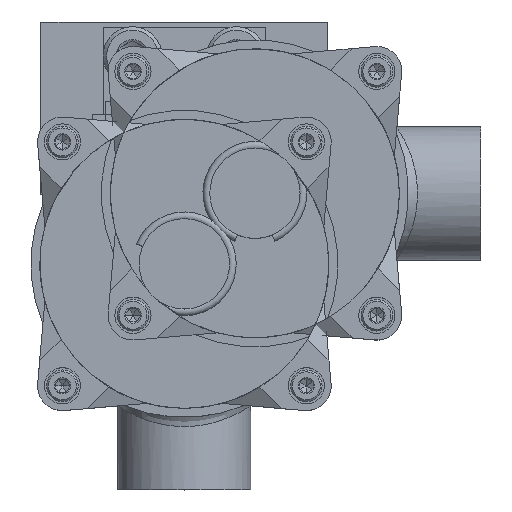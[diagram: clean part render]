
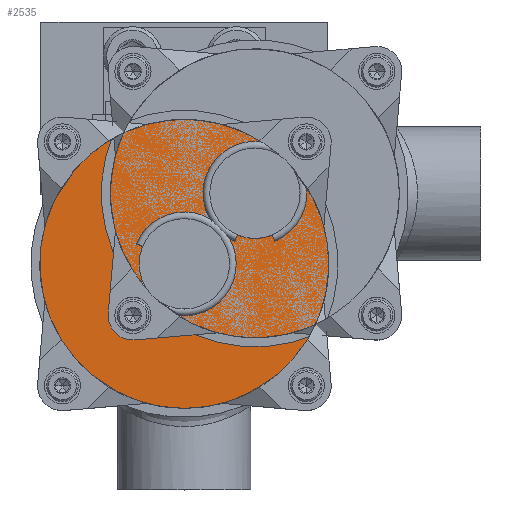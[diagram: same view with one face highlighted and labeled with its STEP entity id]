
A CAD part, top view. The second image highlights one B-rep face of the part: STEP entity #2535.
In plain terms, the highlighted planar face has unit normal (0, 0, 1).
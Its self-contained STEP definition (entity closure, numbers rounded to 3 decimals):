
#2535 = ADVANCED_FACE( '', ( #5988, #5989 ), #5990, .F. );
#5988 = FACE_OUTER_BOUND( '', #11454, .T. );
#5989 = FACE_BOUND( '', #11455, .T. );
#5990 = PLANE( '', #11456 );
#11454 = EDGE_LOOP( '', ( #18633 ) );
#11455 = EDGE_LOOP( '', ( #18634 ) );
#11456 = AXIS2_PLACEMENT_3D( '', #18635, #18636, #18637 );
#18633 = ORIENTED_EDGE( '', *, *, #25814, .T. );
#18634 = ORIENTED_EDGE( '', *, *, #25400, .F. );
#18635 = CARTESIAN_POINT( '', ( -16.375, 0., 156.5 ) );
#18636 = DIRECTION( '', ( 0., 0., -1. ) );
#18637 = DIRECTION( '', ( 0., -1., 0. ) );
#25400 = EDGE_CURVE( '', #30315, #30315, #30316, .T. );
#25814 = EDGE_CURVE( '', #30871, #30871, #30872, .T. );
#30315 = VERTEX_POINT( '', #39588 );
#30316 = CIRCLE( '', #39589, 10. );
#30871 = VERTEX_POINT( '', #40686 );
#30872 = CIRCLE( '', #40687, 32. );
#39588 = CARTESIAN_POINT( '', ( 25.625, 0., 156.5 ) );
#39589 = AXIS2_PLACEMENT_3D( '', #45904, #45905, #45906 );
#40686 = CARTESIAN_POINT( '', ( 47.625, 0., 156.5 ) );
#40687 = AXIS2_PLACEMENT_3D( '', #46371, #46372, #46373 );
#45904 = CARTESIAN_POINT( '', ( 15.625, 0., 156.5 ) );
#45905 = DIRECTION( '', ( 0., 0., 1. ) );
#45906 = DIRECTION( '', ( 1., 0., 0. ) );
#46371 = CARTESIAN_POINT( '', ( 15.625, 0., 156.5 ) );
#46372 = DIRECTION( '', ( 0., 0., 1. ) );
#46373 = DIRECTION( '', ( 1., 0., 0. ) );
